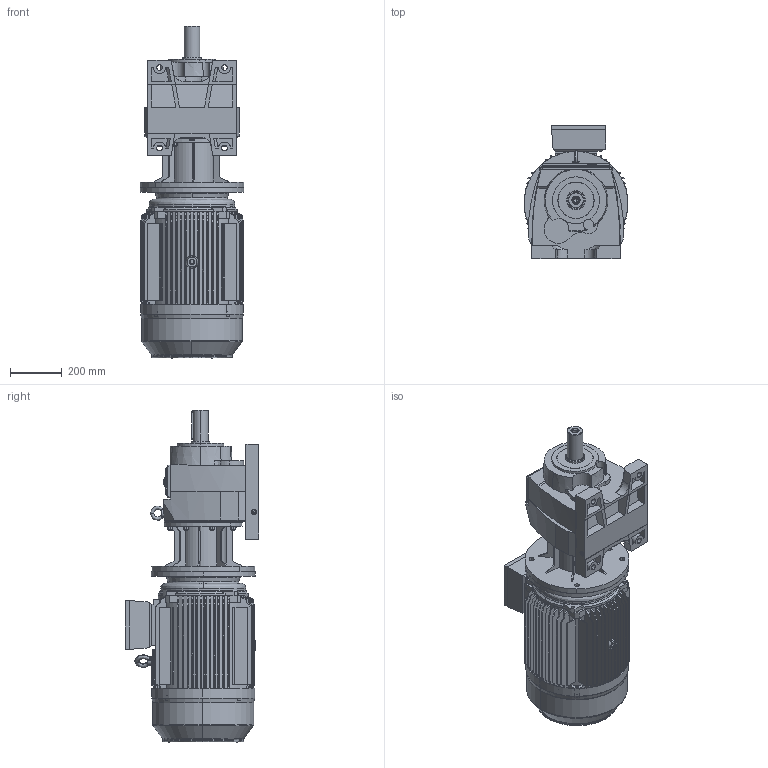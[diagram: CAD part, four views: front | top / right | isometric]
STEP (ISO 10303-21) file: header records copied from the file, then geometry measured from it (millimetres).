
FILE_DESCRIPTION (( 'STEP AP203' ), '1' );
FILE_NAME ('MV572-MV573-M3-200L-4.STEP', '2019-07-24T11:47:21', ( '' ), ( '' ), 'SwSTEP 2.0', 'SolidWorks 2012', '' );
FILE_SCHEMA (( 'CONFIG_CONTROL_DESIGN' ));
Length unit declared in the file: millimetre
Products named in the file (15): MV572-MV573-M3-200L-4; 200-4B5; Plain parallel keys_GB_CONNECTING_PIECE_KEYS_CSK 16X100; Y2-200-4.6.8¦¾Íß¦ð-Ô©Ã_-¼+¤; Y2-200-4.6.8Ã¦Íß¦ð-Ô©Ã_-¼+¤; Y2-200-2.4.6.8ｦｾﾂ-ｩﾃ_-ｼ+､; Y2-200+ｷﾎｨB5_-ｼ+､; ﾍﾟYE3-200L-4.6.8C+ﾎA+ｳ_-ｼ+､; Eyebolts GB_GB_FASTENER_SCREWS_FRS M16-N; Y2-200-4.6.8-ｦﾈﾁﾂ-ｩﾃ_-ｼ+､; MN2-200ﾀiﾍ_-ｼ+､; MN_57_3_0_A-B20_B5_ML3A_0_0_0_0_0_0_0_0_0_0_0_0_M1; ML3A_Varsayìlan; M573_Varsayìlan; 53200B5_Varsayìlan
Assembly tree (14 placements, depth 3):
  MV572-MV573-M3-200L-4
    MN_57_3_0_A-B20_B5_ML3A_0_0_0_0_0_0_0_0_0_0_0_0_M1
      M573_Varsayìlan
      53200B5_Varsayìlan
      ML3A_Varsayìlan
    200-4B5
      Y2-200-4.6.8-ｦﾈﾁﾂ-ｩﾃ_-ｼ+､
      MN2-200ﾀiﾍ_-ｼ+､
      Eyebolts GB_GB_FASTENER_SCREWS_FRS M16-N
      Y2-200+ｷﾎｨB5_-ｼ+､
      Y2-200-4.6.8Ã¦Íß¦ð-Ô©Ã_-¼+¤
      ﾍﾟYE3-200L-4.6.8C+ﾎA+ｳ_-ｼ+､
      Y2-200-2.4.6.8ｦｾﾂ-ｩﾃ_-ｼ+､
      Y2-200-4.6.8¦¾Íß¦ð-Ô©Ã_-¼+¤
      Plain parallel keys_GB_CONNECTING_PIECE_KEYS_CSK 16X100
Bounding box: 400 x 515.31 x 1278.7 mm (x, y, z)
Volume: 53378586.6 mm3; surface area: 5289527 mm2
Topology: 12 solids, 12 shells, 1881 faces, 4818 edges, 3073 vertices
Faces by surface type: plane 661, cylinder 585, cone 471, bspline 164
Entity records: 72209 total; most frequent: CARTESIAN_POINT 25834, ORIENTED_EDGE 9632, DIRECTION 9111, EDGE_CURVE 4816, AXIS2_PLACEMENT_3D 3509, VERTEX_POINT 3073, EDGE_LOOP 2093, LINE 2093
